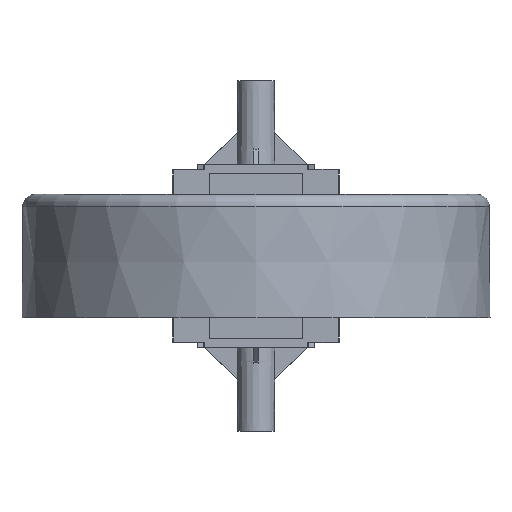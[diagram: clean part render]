
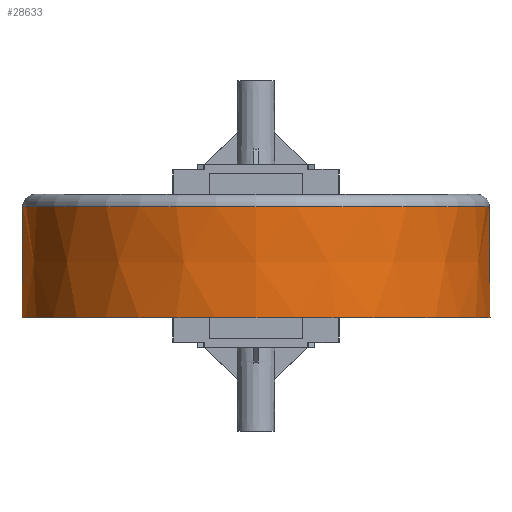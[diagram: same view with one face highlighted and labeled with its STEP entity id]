
A CAD part, front view. The second image highlights one B-rep face of the part: STEP entity #28633.
In plain terms, the highlighted conical face has half-angle 0.3 degrees and reference radius 95 mm.
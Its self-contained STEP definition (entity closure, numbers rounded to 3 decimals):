
#7644 = CARTESIAN_POINT ( 'NONE',  ( -95., 0., 0. ) ) ;
#7673 = DIRECTION ( 'NONE',  ( -0.005, 0., -1. ) ) ;
#7676 = CARTESIAN_POINT ( 'NONE',  ( 0., 0., 0. ) ) ;
#7679 = CARTESIAN_POINT ( 'NONE',  ( 95., 0., 0. ) ) ;
#7681 = DIRECTION ( 'NONE',  ( 0., 0., 1. ) ) ;
#7683 = DIRECTION ( 'NONE',  ( -1., 0., 0. ) ) ;
#7707 = CARTESIAN_POINT ( 'NONE',  ( 0., 0., 45.026 ) ) ;
#7711 = DIRECTION ( 'NONE',  ( 0.005, 0., -1. ) ) ;
#7719 = DIRECTION ( 'NONE',  ( 0., 0., -1. ) ) ;
#7721 = DIRECTION ( 'NONE',  ( 1., 0., 0. ) ) ;
#9546 = VERTEX_POINT ( 'NONE', #19254 ) ;
#9549 = VERTEX_POINT ( 'NONE', #19260 ) ;
#9550 = VERTEX_POINT ( 'NONE', #19262 ) ;
#9552 = VERTEX_POINT ( 'NONE', #19265 ) ;
#19254 = CARTESIAN_POINT ( 'NONE',  ( 94.764, 0., 45.026 ) ) ;
#19260 = CARTESIAN_POINT ( 'NONE',  ( -94.764, 0., 45.026 ) ) ;
#19262 = CARTESIAN_POINT ( 'NONE',  ( 95., 0., 0. ) ) ;
#19265 = CARTESIAN_POINT ( 'NONE',  ( -95., 0., 0. ) ) ;
#19621 = DIRECTION ( 'NONE',  ( -1., 0., 0. ) ) ;
#19623 = DIRECTION ( 'NONE',  ( 0., 0., -1. ) ) ;
#19625 = CARTESIAN_POINT ( 'NONE',  ( 0., 0., 0. ) ) ;
#22396 = FACE_OUTER_BOUND ( 'NONE', #30355, .T. ) ;
#22397 = CONICAL_SURFACE ( 'NONE', #23348, 95., 0.005 ) ;
#23348 = AXIS2_PLACEMENT_3D ( 'NONE', #19625, #19623, #19621 ) ;
#23520 = AXIS2_PLACEMENT_3D ( 'NONE', #7676, #7681, #7683 ) ;
#23526 = AXIS2_PLACEMENT_3D ( 'NONE', #7707, #7719, #7721 ) ;
#28633 = ADVANCED_FACE ( 'NONE', ( #22396 ), #22397, .T. ) ;
#30355 = EDGE_LOOP ( 'NONE', ( #35661, #36106, #34927, #34929 ) ) ;
#33757 = EDGE_CURVE ( 'NONE', #9549, #9552, #54707, .T. ) ;
#33758 = EDGE_CURVE ( 'NONE', #9552, #9550, #54711, .T. ) ;
#33762 = EDGE_CURVE ( 'NONE', #9546, #9550, #54714, .T. ) ;
#33763 = EDGE_CURVE ( 'NONE', #9546, #9549, #54717, .T. ) ;
#34927 = ORIENTED_EDGE ( 'NONE', *, *, #33757, .T. ) ;
#34929 = ORIENTED_EDGE ( 'NONE', *, *, #33758, .T. ) ;
#35661 = ORIENTED_EDGE ( 'NONE', *, *, #33762, .F. ) ;
#36106 = ORIENTED_EDGE ( 'NONE', *, *, #33763, .T. ) ;
#54695 = VECTOR ( 'NONE', #7673, 1000. ) ;
#54707 = LINE ( 'NONE', #7644, #54695 ) ;
#54710 = VECTOR ( 'NONE', #7711, 1000. ) ;
#54711 = CIRCLE ( 'NONE', #23520, 95. ) ;
#54714 = LINE ( 'NONE', #7679, #54710 ) ;
#54717 = CIRCLE ( 'NONE', #23526, 94.764 ) ;
